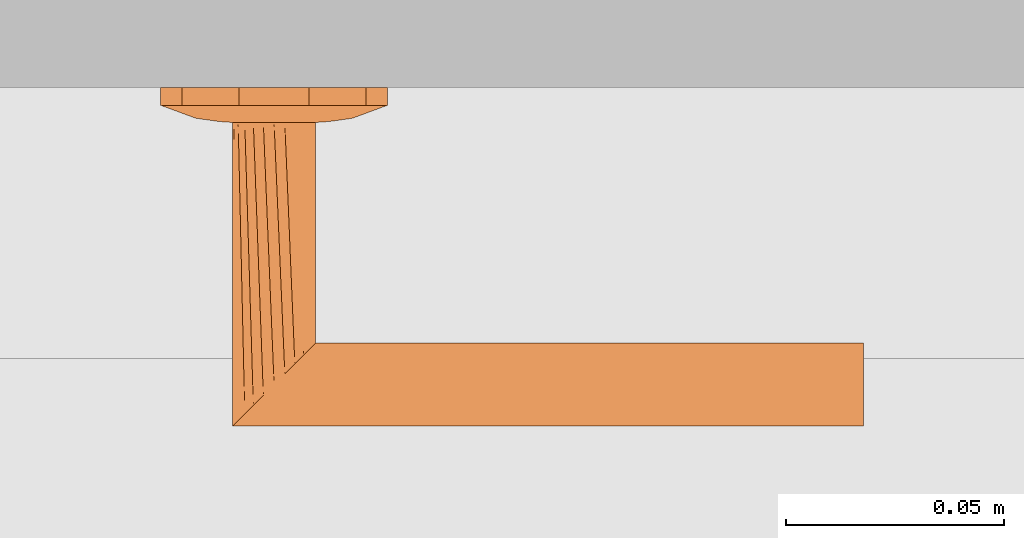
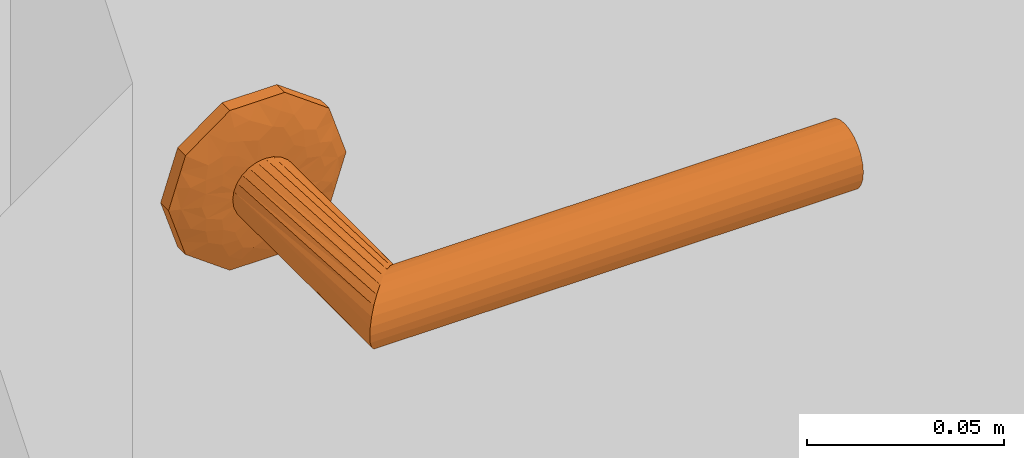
# One storey, part 35 of 55: 1 proxy.
"""IFC2X3 building model written with IfcOpenShell, lengths in millimetres."""

from ifc_helpers import new_model, entity, si_unit, converted_unit, direction, frame, origin, place, context, subcontext, project, spatial, faceted_brep, source, transform, mapped, material, type_object, type_shapes, element, save


model = new_model("IFC2X3")

# Units and contexts
model_context = context("Model", 3, precision=0.01, world=origin(), true_north=direction((6.123233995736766e-17, 1.0)))
plan_context = context("Plan", 3, precision=0.01, world=origin(), true_north=direction((6.123233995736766e-17, 1.0)))
body_context = subcontext(model_context, "Body", "Model", "MODEL_VIEW")
ifc_project = project(units=[si_unit("LENGTHUNIT", "METRE", prefix="MILLI"), converted_unit("PLANEANGLEUNIT", "DEGREE", entity("IfcPlaneAngleMeasure", 0.017453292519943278), si_unit("PLANEANGLEUNIT", "RADIAN"), dimensions=[0, 0, 0, 0, 0, 0, 0]), si_unit("AREAUNIT", "SQUARE_METRE")], contexts=[model_context, plan_context])

# Site, building, storey
site_placement = place(None, origin())
site = spatial("IfcSite", under=ifc_project, at=site_placement, Name="Default", CompositionType="ELEMENT")
building_placement = place(site_placement, origin())
building = spatial("IfcBuilding", under=site, at=building_placement, CompositionType="ELEMENT")
storey_placement = place(building_placement, origin())
storey = spatial("IfcBuildingStorey", under=building, at=storey_placement, Name="1K", CompositionType="ELEMENT", Elevation=0.0)

# Proxy
ifc_material = material(Name="<Unnamed>")
building_element_proxy_type = type_object("IfcBuildingElementProxyType", Name="Door-handle_Lever_ABLOY_INOXI_3-19ss-002_RT:Default", PredefinedType="NOTDEFINED", material=ifc_material)
shared_shape = source(origin(), body_context, "Body", "Brep", [
    faceted_brep([(0.0, 0.0, 0.0), (8.034441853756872, 24.72746942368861, 0.0), (14.534441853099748, 20.00494299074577, 0.0), (21.034441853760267, 15.282416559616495, 0.0), (23.51722092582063, 7.641208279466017, 0.0), (26.0, 0.0, 0.0), (23.517220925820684, -7.641208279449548, 0.0), (0.0, 24.72746942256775, 0.0), (-8.034441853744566, 24.727469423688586, 0.0), (-14.534441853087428, 20.00494299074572, 0.0), (-21.03444185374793, 15.282416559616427, 0.0), (-23.517220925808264, 7.641208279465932, 0.0), (-26.0, 0.0, 0.0), (21.034441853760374, -15.282416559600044, 0.0), (14.534441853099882, -20.004942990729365, 0.0), (8.034441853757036, -24.72746942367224, 0.0), (0.0, -24.72746942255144, 0.0), (-23.517220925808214, -7.641208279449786, 0.0), (-21.034441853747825, -15.282416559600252, 0.0), (-14.53444185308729, -20.004942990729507, 0.0), (-8.0344418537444, -24.72746942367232, 0.0), (0.0, 0.0, 8.0), (9.500000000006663, 0.0, 8.0), (8.312500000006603, 2.056810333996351, 8.0), (7.125000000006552, 4.113620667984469, 8.0), (5.937500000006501, 6.170431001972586, 8.0), (4.7500000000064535, 8.227241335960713, 8.0), (2.375000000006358, 8.2272413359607, 8.0), (0.0, 8.227241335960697, 8.0), (-2.3749999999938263, 8.227241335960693, 8.0), (-4.749999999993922, 8.227241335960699, 8.0), (-5.937499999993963, 6.1704310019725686, 8.0), (-7.124999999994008, 4.1136206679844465, 8.0), (-8.312499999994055, 2.0568103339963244, 8.0), (-9.499999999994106, 0.0, 8.0), (-8.31249999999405, -2.0568103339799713, 8.0), (8.312500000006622, -2.0568103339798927, 8.0), (7.125000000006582, -4.113620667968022, 8.0), (5.937500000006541, -6.170431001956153, 8.0), (4.750000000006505, -8.227241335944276, 8.0), (-7.124999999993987, -4.113620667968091, 8.0), (-5.9374999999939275, -6.17043100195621, 8.0), (-4.74999999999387, -8.227241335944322, 8.0), (-2.374999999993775, -8.227241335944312, 8.0), (0.0, -8.227241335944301, 8.0), (2.3750000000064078, -8.227241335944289, 8.0), (-20.6430713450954, 6.292822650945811, 5.929480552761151), (-16.663919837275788, 7.932665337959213, 6.877259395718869), (-22.48876527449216, 10.806469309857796, 4.030771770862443), (-16.764060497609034, 3.8202578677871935, 7.1747985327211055), (-12.504579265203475, 5.179566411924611, 7.774932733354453), (-11.979136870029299, 13.678312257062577, 6.945778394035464), (-11.963426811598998, 8.62529041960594, 7.618343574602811), (-9.07172672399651, 10.31160661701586, 7.7520782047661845), (8.03444185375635, 24.727469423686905, 4.030771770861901), (0.0, 24.72746942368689, 4.030771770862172), (5.758554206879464, 20.96753300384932, 5.871476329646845), (20.643071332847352, 6.292822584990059, 5.929480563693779), (22.488765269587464, 10.806469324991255, 4.03077177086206), (16.66391982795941, 7.9326653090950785, 6.877259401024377), (9.49943163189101, 18.6436835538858, 6.154325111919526), (14.534441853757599, 20.004942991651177, 4.030771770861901), (-14.534441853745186, 20.00494299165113, 4.030771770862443), (-21.034441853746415, 15.282416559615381, 4.030771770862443), (-15.783149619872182, 11.991003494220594, 6.50080018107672), (-23.943088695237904, 6.330522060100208, 4.030771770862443), (-23.012042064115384, 0.0, 5.135401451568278), (12.50457924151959, 5.179566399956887, 7.774932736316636), (11.963426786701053, 8.625290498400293, 7.618343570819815), (16.76406041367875, 3.820257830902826, 7.17479855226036), (15.783149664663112, 11.991003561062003, 6.50080015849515), (23.01204200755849, 0.0, 5.135401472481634), (17.9853516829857, 0.0, 6.993737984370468), (8.661516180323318, 10.478936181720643, 7.768126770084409), (-3.3573143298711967, 21.197247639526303, 5.971427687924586), (-8.03444185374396, 24.727469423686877, 4.030771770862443), (-7.711266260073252, 12.76034452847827, 7.594456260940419), (-5.97325794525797, 16.43013906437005, 7.110979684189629), (-9.94191586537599, 17.061976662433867, 6.522757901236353), (11.979136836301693, 13.678312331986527, 6.945778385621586), (5.953298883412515, 16.50608604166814, 7.096344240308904), (7.511307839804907, 13.358932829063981, 7.529187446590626), (-1.5654593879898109, 15.307443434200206, 7.519134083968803), (-7.784980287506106, 20.476295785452, 5.812837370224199), (2.8135289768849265, 17.763922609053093, 6.993737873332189), (-17.985351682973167, 0.0, 6.993737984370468), (-26.0, 0.0, 4.030771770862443), (-23.51722092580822, 7.641208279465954, 4.030771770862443), (26.0, 0.0, 4.030771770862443), (24.308823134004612, 5.204907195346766, 4.030771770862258), (23.943088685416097, 6.330522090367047, 4.030771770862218), (21.03444185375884, 15.282416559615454, 4.030771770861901), (22.617646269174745, 10.40981439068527, 4.030771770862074), (20.6430713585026, -6.292822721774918, 5.929480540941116), (16.663919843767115, -7.932665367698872, 6.877259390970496), (22.48876527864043, -10.8064692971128, 4.030771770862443), (16.764060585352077, -3.8202579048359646, 7.174798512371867), (12.504579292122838, -5.17956641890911, 7.774932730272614), (11.979136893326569, -13.678312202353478, 6.9457784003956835), (11.963426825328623, -8.62529034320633, 7.618343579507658), (9.071726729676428, -10.311606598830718, 7.752078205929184), (-8.03444185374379, -24.727469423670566, 4.030771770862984), (0.0, -24.727469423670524, 4.030771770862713), (-5.758554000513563, -20.96753314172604, 5.8714763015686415), (-20.643071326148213, -6.292822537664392, 5.929480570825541), (-22.488765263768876, -10.80646934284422, 4.030771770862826), (-16.66391981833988, -7.932665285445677, 6.877259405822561), (-9.499431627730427, -18.643683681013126, 6.154325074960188), (-14.534441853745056, -20.004942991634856, 4.030771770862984), (14.53444185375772, -20.00494299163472, 4.030771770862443), (21.034441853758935, -15.282416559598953, 4.030771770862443), (15.783149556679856, -11.991003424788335, 6.5008002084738), (23.943088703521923, -6.330522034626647, 4.030771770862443), (-12.504579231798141, -5.17956638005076, 7.77493273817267), (-11.963426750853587, -8.625290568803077, 7.618343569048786), (-16.764060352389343, -3.8202577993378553, 7.174798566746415), (-15.783149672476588, -11.991003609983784, 6.500800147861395), (-8.661516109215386, -10.478936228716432, 7.768126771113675), (3.3573144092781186, -21.197247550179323, 5.971427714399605), (8.034441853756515, -24.727469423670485, 4.030771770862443), (7.711266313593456, -12.760344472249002, 7.5944562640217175), (5.9732581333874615, -16.430139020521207, 7.110979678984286), (9.941915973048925, -17.06197655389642, 6.522757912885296), (-11.979136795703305, -13.678312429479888, 6.945778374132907), (-5.953298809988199, -16.506086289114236, 7.096344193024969), (-7.511307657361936, -13.358932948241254, 7.5291874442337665), (1.5654596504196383, -15.3074431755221, 7.519134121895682), (7.784980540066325, -20.476295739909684, 5.812837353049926), (-2.81352881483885, -17.76392263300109, 6.993737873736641), (23.517220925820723, -7.64120827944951, 4.030771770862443), (-24.308823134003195, -5.20490719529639, 4.030771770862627), (-23.943088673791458, -6.330522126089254, 4.030771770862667), (-21.034441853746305, -15.282416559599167, 4.030771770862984), (-22.617646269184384, -10.409814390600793, 4.0307717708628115)], [[[0, 1, 2]], [[0, 2, 3]], [[0, 3, 4]], [[0, 4, 5]], [[0, 5, 6]], [[0, 7, 1]], [[0, 8, 7]], [[0, 9, 8]], [[0, 10, 9]], [[0, 11, 10]], [[0, 12, 11]], [[0, 6, 13]], [[0, 13, 14]], [[0, 14, 15]], [[0, 15, 16]], [[0, 17, 12]], [[0, 18, 17]], [[0, 19, 18]], [[0, 20, 19]], [[0, 16, 20]], [[21, 22, 23]], [[21, 23, 24]], [[21, 24, 25]], [[21, 25, 26]], [[21, 26, 27]], [[21, 27, 28]], [[21, 28, 29]], [[21, 29, 30]], [[21, 30, 31]], [[21, 31, 32]], [[21, 32, 33]], [[21, 33, 34]], [[21, 34, 35]], [[21, 36, 22]], [[21, 37, 36]], [[21, 38, 37]], [[21, 39, 38]], [[21, 35, 40]], [[21, 40, 41]], [[21, 41, 42]], [[21, 42, 43]], [[21, 43, 44]], [[21, 44, 45]], [[21, 45, 39]], [[46, 47, 48]], [[49, 50, 47]], [[33, 32, 50]], [[51, 52, 53]], [[32, 52, 50]], [[49, 47, 46]], [[54, 55, 56]], [[57, 58, 59]], [[60, 61, 54]], [[62, 63, 64]], [[46, 65, 66]], [[67, 59, 68]], [[23, 69, 67]], [[70, 68, 59]], [[23, 22, 69]], [[52, 51, 64]], [[71, 69, 72]], [[73, 25, 68]], [[74, 55, 75]], [[76, 77, 78]], [[70, 61, 79]], [[71, 57, 69]], [[60, 80, 81]], [[51, 76, 78]], [[77, 29, 82]], [[26, 81, 27]], [[74, 83, 77]], [[77, 82, 74]], [[74, 84, 55]], [[34, 49, 85]], [[23, 67, 24]], [[28, 84, 82]], [[74, 82, 84]], [[29, 76, 30]], [[29, 28, 82]], [[49, 34, 33]], [[47, 50, 52]], [[47, 52, 64]], [[50, 49, 33]], [[53, 76, 51]], [[52, 32, 31]], [[49, 66, 85]], [[86, 66, 65]], [[24, 67, 68]], [[83, 78, 77]], [[49, 46, 66]], [[48, 64, 63]], [[46, 48, 87, 65]], [[48, 47, 64]], [[59, 67, 69]], [[26, 73, 81]], [[79, 68, 70]], [[25, 24, 68]], [[71, 88, 89, 90]], [[22, 72, 69]], [[59, 69, 57]], [[79, 61, 60]], [[51, 62, 64]], [[70, 58, 91]], [[90, 57, 71]], [[58, 70, 59]], [[57, 90, 92]], [[79, 60, 81]], [[61, 70, 91]], [[56, 80, 60]], [[79, 81, 73]], [[80, 84, 27]], [[79, 73, 68]], [[27, 84, 28]], [[25, 73, 26]], [[77, 76, 29]], [[31, 30, 53]], [[78, 62, 51]], [[75, 62, 83]], [[78, 83, 62]], [[75, 83, 74]], [[76, 53, 30]], [[31, 53, 52]], [[81, 80, 27]], [[84, 80, 56]], [[84, 56, 55]], [[54, 56, 60]], [[93, 94, 95]], [[96, 97, 94]], [[36, 37, 97]], [[98, 99, 100]], [[37, 99, 97]], [[96, 94, 93]], [[101, 102, 103]], [[104, 105, 106]], [[107, 108, 101]], [[109, 110, 111]], [[93, 112, 71]], [[113, 106, 114]], [[35, 115, 113]], [[116, 114, 106]], [[35, 34, 115]], [[99, 98, 111]], [[66, 115, 85]], [[117, 41, 114]], [[118, 102, 119]], [[120, 121, 122]], [[116, 108, 123]], [[66, 104, 115]], [[107, 124, 125]], [[120, 45, 121]], [[121, 45, 126]], [[42, 125, 43]], [[118, 127, 121]], [[121, 126, 118]], [[118, 128, 102]], [[22, 96, 72]], [[35, 113, 40]], [[44, 128, 126]], [[118, 126, 128]], [[45, 120, 39]], [[45, 44, 126]], [[96, 22, 36]], [[94, 97, 99]], [[94, 99, 111]], [[97, 96, 36]], [[100, 120, 98]], [[99, 37, 38]], [[96, 71, 72]], [[88, 71, 112]], [[40, 113, 114]], [[127, 122, 121]], [[96, 93, 71]], [[95, 111, 110]], [[93, 95, 129, 112]], [[95, 94, 111]], [[106, 113, 115]], [[42, 117, 125]], [[123, 114, 116]], [[41, 40, 114]], [[66, 86, 130, 131]], [[34, 85, 115]], [[106, 115, 104]], [[123, 108, 107]], [[98, 109, 111]], [[116, 105, 132]], [[131, 104, 66]], [[105, 116, 106]], [[104, 131, 133]], [[123, 107, 125]], [[108, 116, 132]], [[103, 124, 107]], [[123, 125, 117]], [[124, 128, 43]], [[123, 117, 114]], [[43, 128, 44]], [[41, 117, 42]], [[38, 39, 100]], [[98, 120, 122]], [[122, 109, 98]], [[119, 109, 127]], [[122, 127, 109]], [[119, 127, 118]], [[120, 100, 39]], [[38, 100, 99]], [[125, 124, 43]], [[128, 124, 103]], [[128, 103, 102]], [[101, 103, 107]], [[9, 10, 63, 62, 75, 8]], [[11, 12, 86, 65, 87, 48, 63, 10]], [[4, 3, 92, 90, 89, 88, 5]], [[3, 91, 58]], [[55, 54, 1, 7, 8, 75]], [[3, 2, 1, 54, 61, 91]], [[13, 6, 5, 88, 112, 129, 95, 110]], [[119, 15, 14, 13, 110, 109]], [[17, 18, 133, 131, 130, 86, 12]], [[18, 132, 105]], [[102, 101, 20, 16, 15, 119]], [[18, 19, 20, 101, 108, 132]], [[57, 92, 58]], [[104, 133, 105]], [[3, 58, 92]], [[18, 105, 133]]]),
    faceted_brep([(0.0, 9.499999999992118, 8.0), (2.4587809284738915, 9.176295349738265, 8.0), (4.7499999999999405, 8.22724133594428, 8.0), (6.717514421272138, 6.7175144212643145, 8.0), (8.227241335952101, 4.749999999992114, 8.0), (9.17629534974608, 2.458780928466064, 8.0), (9.499999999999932, 0.0, 8.0), (9.17629534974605, -2.458780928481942, 8.0), (8.22724133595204, -4.75000000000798, 8.0), (6.717514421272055, -6.717514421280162, 8.0), (4.7499999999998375, -8.227241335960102, 8.0), (2.4587809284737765, -9.176295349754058, 8.0), (0.0, -9.500000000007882, 8.0), (-2.4587809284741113, -9.176295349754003, 8.0), (-4.750000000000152, -8.227241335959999, 8.0), (-6.717514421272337, -6.717514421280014, 8.0), (-8.227241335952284, -4.750000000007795, 8.0), (-9.176295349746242, -2.458780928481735, 8.0), (-9.500000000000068, 0.0, 8.0), (-9.176295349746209, 2.4587809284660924, 8.0), (-8.227241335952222, 4.74999999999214, 8.0), (-6.717514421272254, 6.717514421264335, 8.0), (-4.7500000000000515, 8.227241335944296, 8.0), (-2.4587809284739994, 9.176295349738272, 8.0), (-6.717514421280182, -6.7175144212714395, 61.282485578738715), (-8.227241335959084, -4.7499999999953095, 59.772758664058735), (-9.176295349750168, -2.458780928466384, 58.82370465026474), (-2.4587809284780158, -9.176295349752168, 65.54121907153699), (-4.750000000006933, -8.227241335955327, 63.25000000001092), (-9.500000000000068, 0.0, 58.50000000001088), (0.0, -9.50000000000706, 68.0), (2.4587809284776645, -9.17629534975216, 70.45878092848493), (4.750000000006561, -8.227241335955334, 72.75000000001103), (6.717514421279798, -6.7175144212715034, 74.71751442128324), (9.17629534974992, -2.458780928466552, 77.17629534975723), (8.22724133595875, -4.749999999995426, 76.22724133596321), (9.499999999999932, 0.0, 77.50000000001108), (9.176295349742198, 2.4587809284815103, 77.1762953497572), (8.227241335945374, 4.750000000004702, 76.22724133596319), (4.749999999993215, 8.227241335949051, 72.75000000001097), (6.7175144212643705, 6.717514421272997, 74.7175144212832), (2.4587809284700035, 9.17629534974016, 70.45878092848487), (-2.4587809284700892, 9.176295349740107, 65.54121907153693), (0.0, 9.49999999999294, 68.0), (-6.717514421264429, 6.717514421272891, 61.282485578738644), (-4.749999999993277, 8.227241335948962, 63.250000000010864), (-9.176295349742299, 2.458780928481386, 58.8237046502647), (-8.227241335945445, 4.750000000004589, 59.77275866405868), (-135.0, 9.500000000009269, 68.0), (-135.0, 9.176295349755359, 65.54121907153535), (-135.0, 8.227241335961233, 63.25000000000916), (-135.0, 6.7175144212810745, 61.28248557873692), (-135.0, 4.750000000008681, 59.772758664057), (-135.0, 2.458780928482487, 58.82370465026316), (-135.0, 0.0, 58.50000000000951), (-135.0, -2.458780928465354, 58.823704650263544), (-135.0, -4.749999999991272, 59.772758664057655), (-135.0, -6.717514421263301, 61.28248557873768), (-135.0, -8.227241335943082, 63.250000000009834), (-135.0, -9.17629534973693, 65.54121907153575), (-135.0, -9.499999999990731, 68.0), (-135.0, -9.17629534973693, 70.45878092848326), (-135.0, -8.227241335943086, 72.75000000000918), (-135.0, -6.717514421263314, 74.71751442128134), (-135.0, -4.749999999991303, 76.22724133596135), (-135.0, -2.4587809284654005, 77.17629534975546), (-135.0, 0.0, 77.5000000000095), (-135.0, 2.4587809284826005, 77.17629534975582), (-135.0, 4.750000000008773, 76.22724133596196), (-135.0, 6.717514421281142, 74.71751442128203), (-135.0, 8.227241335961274, 72.75000000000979), (-135.0, 9.176295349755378, 70.4587809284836)], [[[0, 1, 2, 3, 4, 5, 6, 7, 8, 9, 10, 11, 12, 13, 14, 15, 16, 17, 18, 19, 20, 21, 22, 23]], [[15, 24, 25, 16]], [[16, 25, 26, 17]], [[27, 28, 12]], [[12, 28, 13]], [[13, 28, 24]], [[18, 17, 26, 29]], [[24, 15, 14]], [[14, 13, 24]], [[11, 30, 27]], [[31, 9, 32]], [[32, 8, 33]], [[34, 35, 7]], [[7, 35, 33]], [[36, 34, 7, 6]], [[30, 11, 10]], [[11, 27, 12]], [[33, 8, 7]], [[8, 32, 9]], [[31, 10, 9]], [[10, 31, 30]], [[37, 36, 6, 5]], [[37, 5, 38]], [[39, 40, 4]], [[5, 40, 38]], [[41, 39, 3]], [[5, 4, 40]], [[42, 43, 1]], [[2, 1, 43]], [[2, 41, 3]], [[39, 4, 3]], [[2, 43, 41]], [[23, 44, 45]], [[0, 45, 42]], [[19, 18, 29, 46]], [[20, 19, 46, 47]], [[21, 20, 47, 44]], [[23, 22, 44]], [[45, 0, 23]], [[44, 22, 21]], [[1, 0, 42]], [[48, 49, 50, 51, 52, 53, 54, 55, 56, 57, 58, 59, 60, 61, 62, 63, 64, 65, 66, 67, 68, 69, 70, 71]], [[26, 25, 56, 55]], [[29, 26, 55, 54]], [[28, 27, 59, 58]], [[24, 28, 58, 57]], [[25, 24, 57, 56]], [[27, 30, 60, 59]], [[32, 33, 63, 62]], [[31, 32, 62, 61]], [[34, 36, 66, 65]], [[35, 34, 65, 64]], [[33, 35, 64, 63]], [[61, 60, 30, 31]], [[38, 68, 67, 37]], [[37, 67, 66, 36]], [[41, 71, 70, 39]], [[39, 70, 69, 40]], [[40, 69, 68, 38]], [[48, 71, 41, 43]], [[44, 51, 50, 45]], [[45, 50, 49, 42]], [[29, 54, 53, 46]], [[46, 53, 52, 47]], [[47, 52, 51, 44]], [[42, 49, 48, 43]]]),
])
type_shapes(building_element_proxy_type, [shared_shape])
proxy_placement = place(storey_placement, frame((7510.0, 4270.0, 1000.0), z_axis=(0.0, -1.0, 0.0), x_axis=(-1.0, 0.0, 0.0)))
element("IfcBuildingElementProxy", 1, at=proxy_placement, inside=storey, type_object=building_element_proxy_type, material=ifc_material, Name="Door-handle_Lever_ABLOY_INOXI_3-19ss-002_RT:Default", ObjectType="Door-handle_Lever_ABLOY_INOXI_3-19ss-002_RT:Default", context=body_context, shape_type="MappedRepresentation", body=[
    mapped(shared_shape, transform((0.0, 0.0, 0.0), scale=1.0)),
])

save(model, "model.ifc")
